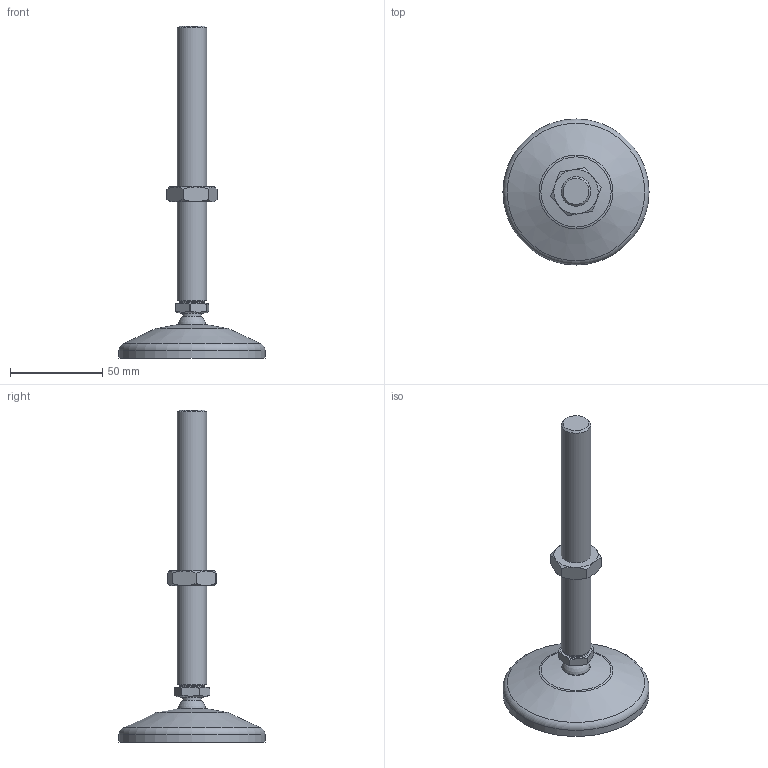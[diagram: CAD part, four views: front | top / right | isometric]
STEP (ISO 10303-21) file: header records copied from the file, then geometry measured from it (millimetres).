
FILE_DESCRIPTION(('STEP AP242'),'1');
FILE_NAME('TAPID80M16150PA.stp','2026-10-12T10:31:39',(' '),(' '),'Spatial InterOp 3D',' ',' ');
FILE_SCHEMA(('AP242_MANAGED_MODEL_BASED_3D_ENGINEERING_MIM_LF {1 0 10303 442 1 1 4}'));
Length unit declared in the file: millimetre
Products named in the file (5): Pied Ø80 PA - M16x150 articulé réglable (+/- 55mm); HB M16 - ZN; Tige filetée M16x150 (Ø15); Embase PA Ø80 (Ø15); TAPID80M16150PA
Assembly tree (4 placements, depth 3):
  TAPID80M16150PA
    Pied Ø80 PA - M16x150 articulé réglable (+/- 55mm)
      HB M16 - ZN
      Tige filetée M16x150 (Ø15)
      Embase PA Ø80 (Ø15)
Bounding box: 79 x 79 x 179.5 mm (x, y, z)
Volume: 77121.4 mm3; surface area: 23555.3 mm2
Topology: 3 solids, 3 shells, 78 faces, 179 edges, 109 vertices
Faces by surface type: plane 20, cylinder 20, cone 18, torus 17, sphere 2, bspline 1
Full cylindrical faces by diameter (mm): 10 x1, 14 x2, 15 x1, 15.5 x1, 16 x1, 69 x1, 79 x1
Entity records: 3315 total; most frequent: CARTESIAN_POINT 841, DIRECTION 338, ORIENTED_EDGE 304, AXIS2_PLACEMENT_3D 157, EDGE_CURVE 152, EDGE_LOOP 104, VERTEX_POINT 104, FACE_OUTER_BOUND 92
